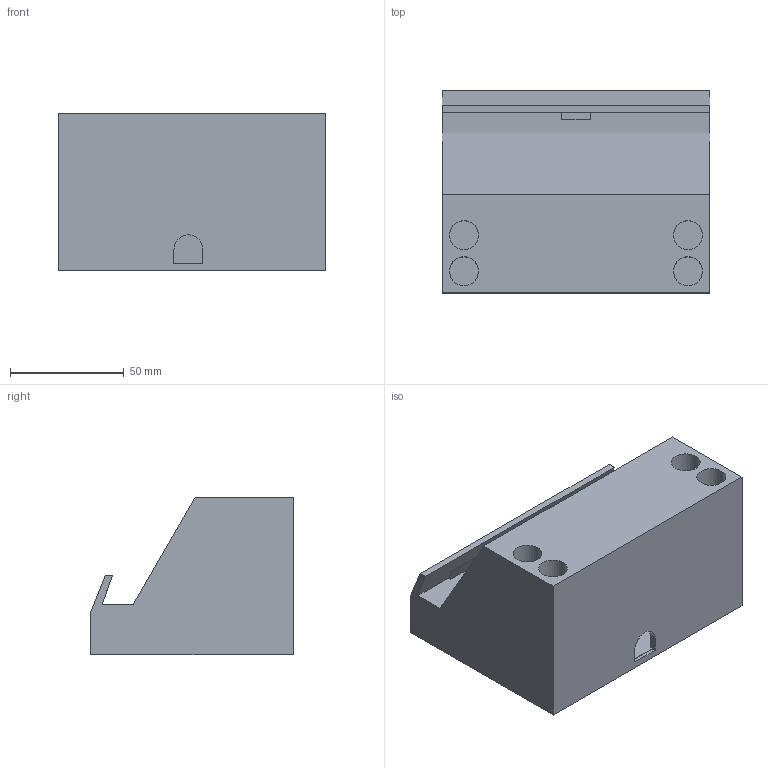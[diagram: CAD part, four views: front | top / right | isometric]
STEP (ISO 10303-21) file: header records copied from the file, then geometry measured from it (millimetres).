
FILE_DESCRIPTION(/* description */ (''),/* implementation_level */ '2;1');
FILE_NAME(/* name */ 'C:/Users/rtucker/Desktop/Projects/Cellphone holder v2.step',/* time_stamp */ '2020-09-29T10:42:01-04:00',/* author */ (''),/* organization */ (''),/* preprocessor_version */ 'ST-DEVELOPER v18.1',/* originating_system */ 'Autodesk Translation Framework v9.3.0.1241',/* authorisation */ '');
FILE_SCHEMA (('AUTOMOTIVE_DESIGN { 1 0 10303 214 3 1 1 }'));
Length unit declared in the file: inch
Products named in the file (1): Cellphone holder
Bounding box: 117.47 x 88.9 x 69.4 mm (x, y, z)
Volume: 410412.3 mm3; surface area: 75468.8 mm2
Topology: 2 solids, 2 shells, 48 faces, 124 edges, 82 vertices
Faces by surface type: plane 43, cylinder 5
Full cylindrical faces by diameter (mm): 12.7 x4
Entity records: 1484 total; most frequent: CARTESIAN_POINT 255, ORIENTED_EDGE 248, DIRECTION 232, EDGE_CURVE 124, LINE 114, VECTOR 114, VERTEX_POINT 82, AXIS2_PLACEMENT_3D 59
